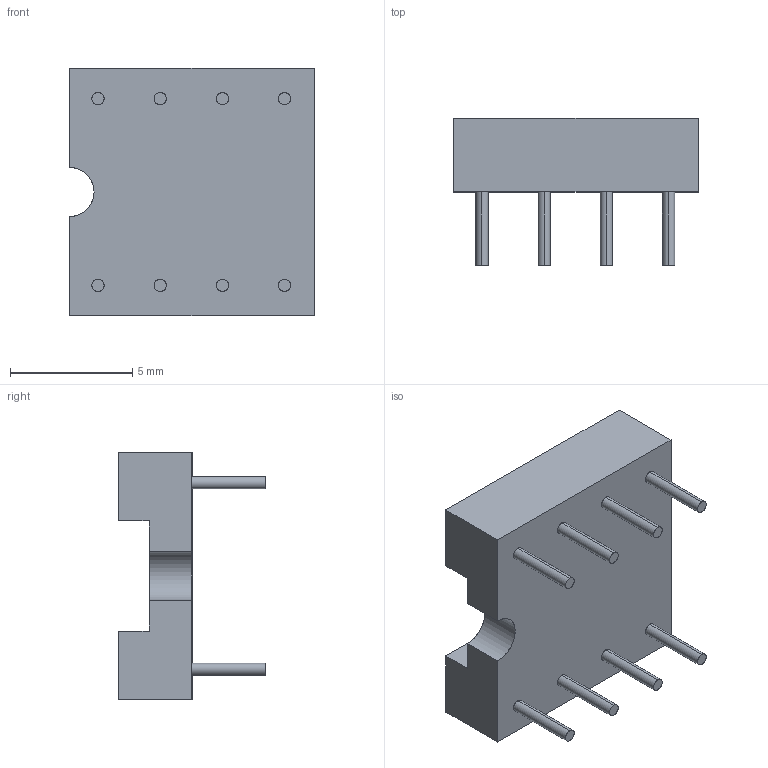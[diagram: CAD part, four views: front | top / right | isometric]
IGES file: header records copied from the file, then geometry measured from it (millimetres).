
Start section: SolidWorks IGES file using analytic representation for surfaces
Global section: file name: C:\Users\AndreBernot\Downloads\K-RACER-L_3D_SW\K-RACER-L_3D_SW\Support CI 8 pattes.IGS; native system: SolidWorks 2015; preprocessor: SolidWorks 2015; author: AndreBernot; date: 170922.151601; units: millimetre
Bounding box: 10 x 6 x 10.1 mm (x, y, z)
Surface area: 423.2 mm2 (no closed solid volume)
Topology: 0 solids, 0 shells, 60 faces, 730 edges, 730 vertices
Faces by surface type: revolution 33, bspline 27
